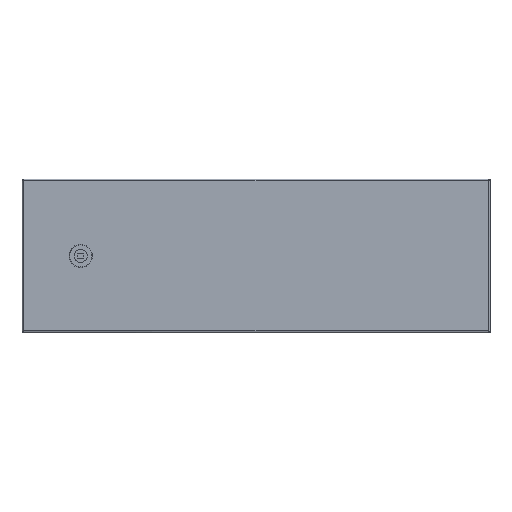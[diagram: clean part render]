
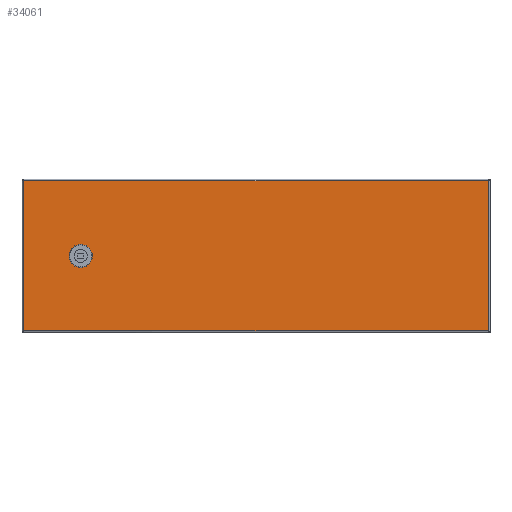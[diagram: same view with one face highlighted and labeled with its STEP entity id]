
A CAD part, top view. The second image highlights one B-rep face of the part: STEP entity #34061.
In plain terms, the highlighted planar face has unit normal (0, 0, 1).
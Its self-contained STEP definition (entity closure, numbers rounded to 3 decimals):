
#31801=CARTESIAN_POINT(' ',(591.7,95.2,0.));
#31806=DIRECTION(' ',(-1.,0.,0.));
#31811=VECTOR(' ',#31806,1.);
#31816=LINE('',#31801,#31811);
#31821=CARTESIAN_POINT(' ',(591.7,95.2,0.));
#31822=VERTEX_POINT(' ',#31821);
#31826=CARTESIAN_POINT(' ',(2.3,95.2,0.));
#31827=VERTEX_POINT(' ',#31826);
#31831=EDGE_CURVE(' ',#31822,#31827,#31816,.T.);
#33921=DIRECTION(' ',(-0.,-0.,1.));
#33926=CARTESIAN_POINT(' ',(591.7,-95.2,0.));
#33931=DIRECTION(' ',(0.,1.,0.));
#33936=AXIS2_PLACEMENT_3D(' ',#33926,#33921,#33931);
#33941=PLANE('NONE',#33936);
#33946=CARTESIAN_POINT(' ',(2.3,-95.2,0.));
#33951=DIRECTION(' ',(1.,0.,0.));
#33956=VECTOR(' ',#33951,1.);
#33961=LINE('',#33946,#33956);
#33966=CARTESIAN_POINT(' ',(2.3,-95.2,0.));
#33967=VERTEX_POINT(' ',#33966);
#33971=CARTESIAN_POINT(' ',(591.7,-95.2,0.));
#33972=VERTEX_POINT(' ',#33971);
#33976=EDGE_CURVE(' ',#33967,#33972,#33961,.T.);
#33981=ORIENTED_EDGE(' ',*,*,#33976,.T.);
#33986=CARTESIAN_POINT(' ',(591.7,95.2,0.));
#33991=DIRECTION(' ',(0.,-1.,0.));
#33996=VECTOR(' ',#33991,1.);
#34001=LINE('',#33986,#33996);
#34006=EDGE_CURVE(' ',#31822,#33972,#34001,.T.);
#34011=ORIENTED_EDGE(' ',*,*,#34006,.F.);
#34016=ORIENTED_EDGE(' ',*,*,#31831,.T.);
#34021=CARTESIAN_POINT(' ',(2.3,95.2,0.));
#34026=DIRECTION(' ',(0.,-1.,0.));
#34031=VECTOR(' ',#34026,1.);
#34036=LINE('',#34021,#34031);
#34041=EDGE_CURVE(' ',#31827,#33967,#34036,.T.);
#34046=ORIENTED_EDGE(' ',*,*,#34041,.T.);
#34051=EDGE_LOOP(' ',(#33981,#34011,#34016,#34046));
#34056=FACE_OUTER_BOUND(' ',#34051,.T.);
#34061=ADVANCED_FACE('NONE',(#34056),#33941,.T.);
